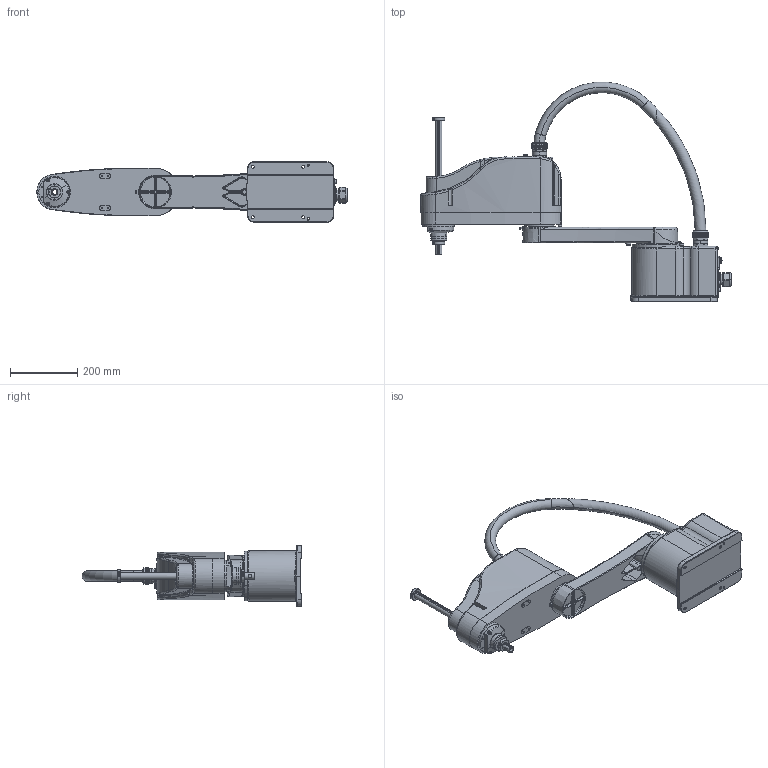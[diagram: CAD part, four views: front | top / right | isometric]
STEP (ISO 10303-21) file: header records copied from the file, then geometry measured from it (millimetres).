
FILE_DESCRIPTION(/* description */ (''),/* implementation_level */ '2;1');
FILE_NAME(/* name */ 'SG500.stp',/* time_stamp */ '2020-01-09T10:01:58+01:00',/* author */ (''),/* organization */ (''),/* preprocessor_version */ 'ST-DEVELOPER v16.7',/* originating_system */ 'SIEMENS PLM Software NX 12.0',/* authorisation */ '');
FILE_SCHEMA (('AUTOMOTIVE_DESIGN { 1 0 10303 214 3 1 1 1 }'));
Length unit declared in the file: millimetre
Products named in the file (5): UR_VIEW_YR-1-04SX650-A0; L_VIEW_YR-1-04SX650-A0; S_VIEW_YR-1-04SX650-A0; BASE_VIEW_YR-1-04SX650-A0; SG500
Assembly tree (4 placements, depth 2):
  SG500
    BASE_VIEW_YR-1-04SX650-A0
    S_VIEW_YR-1-04SX650-A0
    L_VIEW_YR-1-04SX650-A0
    UR_VIEW_YR-1-04SX650-A0
Bounding box: 923.96 x 654.13 x 180 mm (x, y, z)
Volume: 17998943.9 mm3; surface area: 865279.4 mm2
Topology: 4 solids, 7 shells, 1850 faces, 4615 edges, 2849 vertices
Faces by surface type: plane 668, cylinder 554, bspline 238, torus 230, cone 111, sphere 39, extrusion 10
Entity records: 81419 total; most frequent: CARTESIAN_POINT 39046, ORIENTED_EDGE 9118, DIRECTION 8348, EDGE_CURVE 4559, AXIS2_PLACEMENT_3D 3244, VERTEX_POINT 2849, EDGE_LOOP 2012, VECTOR 1860
